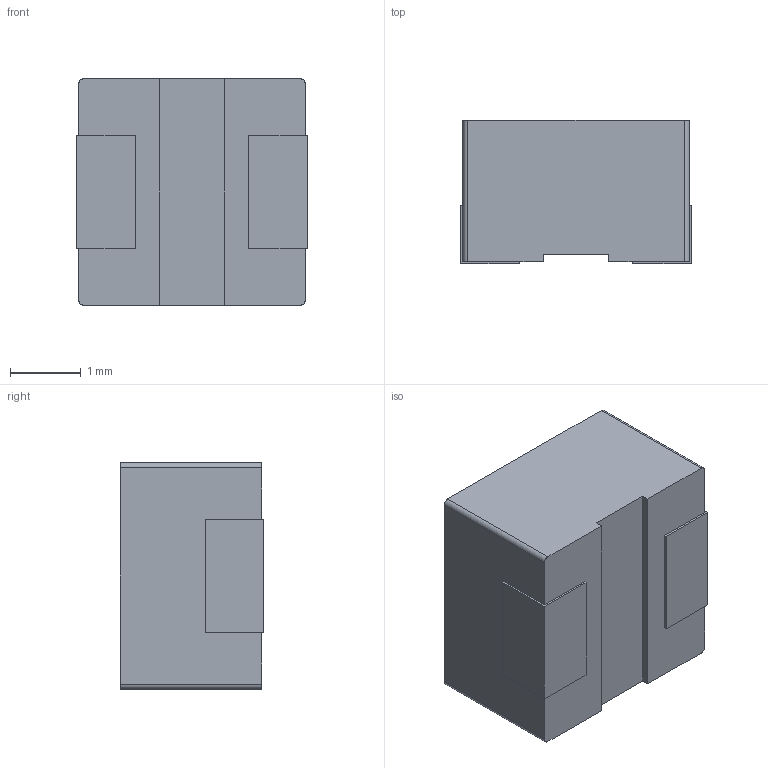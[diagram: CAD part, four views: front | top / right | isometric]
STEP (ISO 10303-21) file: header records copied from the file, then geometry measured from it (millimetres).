
FILE_DESCRIPTION (( 'STEP AP203' ), '1' );
FILE_NAME ('0320.STEP', '2025-07-17T04:44:47', ( 'user' ), ( '' ), 'SwSTEP 2.0', 'SolidWorks 2018', '' );
FILE_SCHEMA (( 'CONFIG_CONTROL_DESIGN' ));
Length unit declared in the file: millimetre
Products named in the file (1): 0320
Bounding box: 3.26 x 2.03 x 3.2 mm (x, y, z)
Volume: 20.3 mm3; surface area: 46.9 mm2
Topology: 1 solids, 1 shells, 26 faces, 72 edges, 48 vertices
Faces by surface type: plane 22, cylinder 4
Entity records: 901 total; most frequent: CARTESIAN_POINT 147, ORIENTED_EDGE 144, DIRECTION 134, EDGE_CURVE 72, VECTOR 64, LINE 64, VERTEX_POINT 48, AXIS2_PLACEMENT_3D 35
